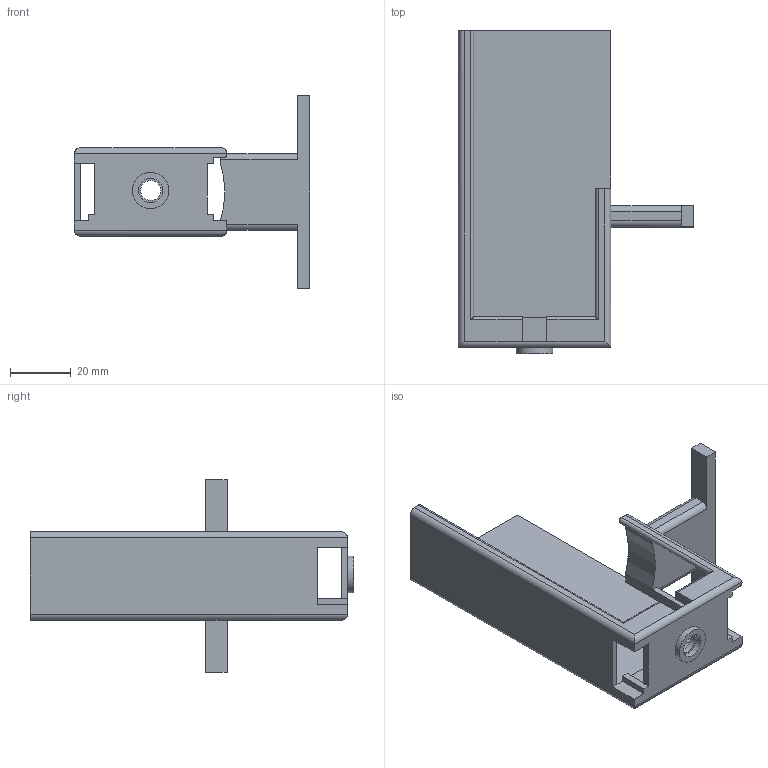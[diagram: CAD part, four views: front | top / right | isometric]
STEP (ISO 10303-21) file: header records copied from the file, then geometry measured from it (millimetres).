
FILE_DESCRIPTION(('Open CASCADE Model'),'2;1');
FILE_NAME('Open CASCADE Shape Model','2026-11-14T12:05:08',('Author'),( 'Open CASCADE'),'Open CASCADE STEP processor 8.0','Open CASCADE 8.0' ,'Unknown');
FILE_SCHEMA(('AUTOMOTIVE_DESIGN { 1 0 10303 214 1 1 1 1 }'));
Length unit declared in the file: millimetre
Products named in the file (1): Open CASCADE STEP translator 8.0 2
Bounding box: 77.15 x 106 x 63 mm (x, y, z)
Volume: 27234.9 mm3; surface area: 23608.7 mm2
Topology: 1 solids, 1 shells, 75 faces, 213 edges, 138 vertices
Faces by surface type: plane 56, cylinder 19
Full cylindrical faces by diameter (mm): 6.6 x1, 8 x1, 12 x1
Entity records: 5544 total; most frequent: CARTESIAN_POINT 1298, DIRECTION 783, LINE 560, VECTOR 560, ORIENTED_EDGE 426, PCURVE 426, DEFINITIONAL_REPRESENTATION 426, EDGE_CURVE 213
